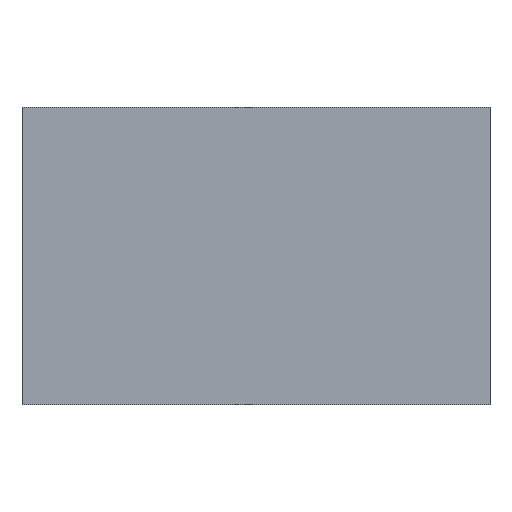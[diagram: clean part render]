
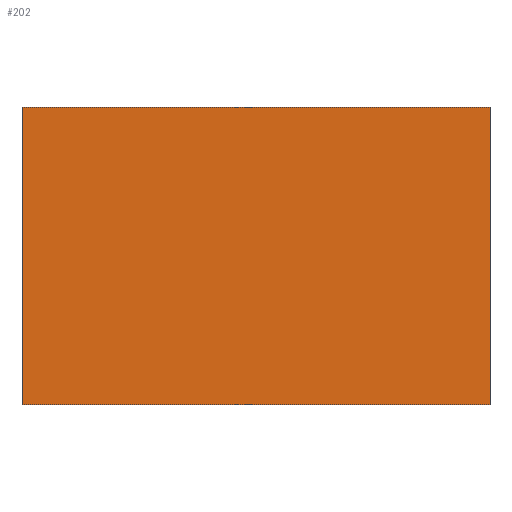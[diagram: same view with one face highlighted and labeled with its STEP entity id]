
A CAD part, top view. The second image highlights one B-rep face of the part: STEP entity #202.
In plain terms, the highlighted planar face has unit normal (0, 0, 1).
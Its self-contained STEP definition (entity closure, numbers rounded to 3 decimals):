
#123=DIRECTION('',(0.,-1.,0.));
#124=VECTOR('',#123,67.07);
#125=CARTESIAN_POINT('',(1160.423,796.48,0.));
#126=LINE('',#125,#124);
#127=DIRECTION('',(-1.,0.,0.));
#128=VECTOR('',#127,105.42);
#129=CARTESIAN_POINT('',(1265.843,796.48,0.));
#130=LINE('',#129,#128);
#131=DIRECTION('',(0.,1.,0.));
#132=VECTOR('',#131,67.07);
#133=CARTESIAN_POINT('',(1265.843,729.41,0.));
#134=LINE('',#133,#132);
#135=DIRECTION('',(1.,0.,0.));
#136=VECTOR('',#135,105.42);
#137=CARTESIAN_POINT('',(1160.423,729.41,0.));
#138=LINE('',#137,#136);
#171=CARTESIAN_POINT('',(1160.423,796.48,0.));
#172=CARTESIAN_POINT('',(1160.423,729.41,0.));
#173=VERTEX_POINT('',#171);
#174=VERTEX_POINT('',#172);
#175=CARTESIAN_POINT('',(1265.843,729.41,0.));
#176=VERTEX_POINT('',#175);
#177=CARTESIAN_POINT('',(1265.843,796.48,0.));
#178=VERTEX_POINT('',#177);
#187=CARTESIAN_POINT('',(0.,0.,0.));
#188=DIRECTION('',(0.,0.,1.));
#189=DIRECTION('',(1.,0.,0.));
#190=AXIS2_PLACEMENT_3D('',#187,#188,#189);
#191=PLANE('',#190);
#193=ORIENTED_EDGE('',*,*,#192,.F.);
#195=ORIENTED_EDGE('',*,*,#194,.F.);
#197=ORIENTED_EDGE('',*,*,#196,.F.);
#199=ORIENTED_EDGE('',*,*,#198,.F.);
#200=EDGE_LOOP('',(#193,#195,#197,#199));
#201=FACE_OUTER_BOUND('',#200,.F.);
#192=EDGE_CURVE('',#173,#174,#126,.T.);
#194=EDGE_CURVE('',#178,#173,#130,.T.);
#196=EDGE_CURVE('',#176,#178,#134,.T.);
#198=EDGE_CURVE('',#174,#176,#138,.T.);
#202=ADVANCED_FACE('',(#201),#191,.T.);
